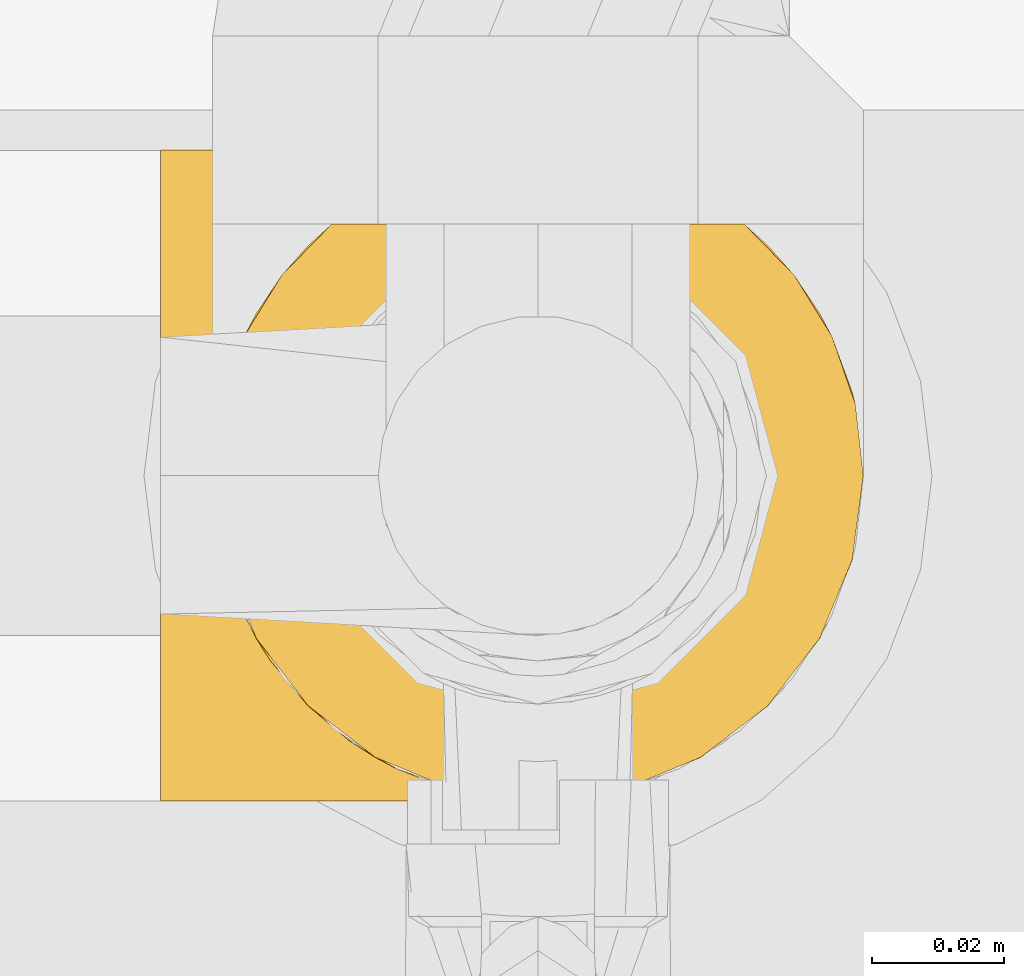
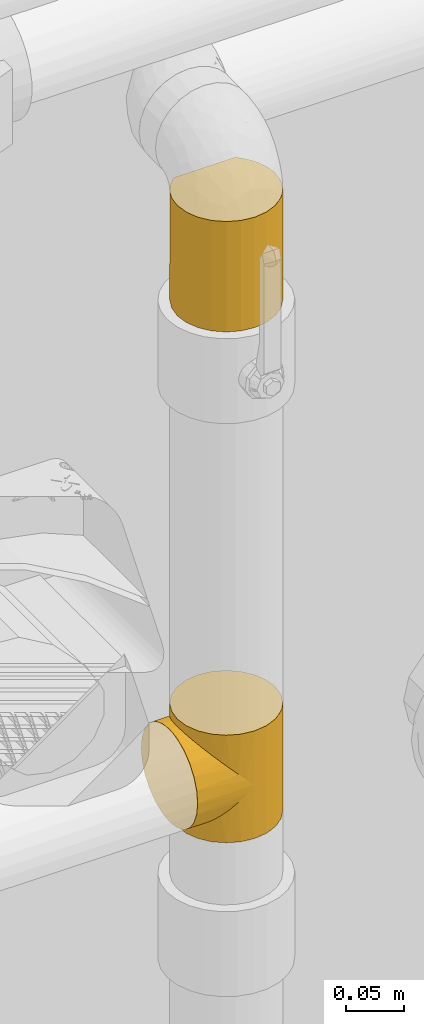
# One storey, part 17 of 94: 2 coverings.
"""IFC2X3 building model written with IfcOpenShell, lengths in millimetres."""

from ifc_helpers import new_model, entity, si_unit, converted_unit, derived_unit, direction, frame, origin, place, context, subcontext, project, spatial, faceted_brep, material, element, save


model = new_model("IFC2X3")

# Units and contexts
model_context = context("Model", 3, precision=0.01, world=origin(), true_north=direction((6.123031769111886e-17, 1.0)))
body_context = subcontext(model_context, "Body", "Model", "MODEL_VIEW")
ifc_project = project(units=[si_unit("LENGTHUNIT", "METRE", prefix="MILLI"), si_unit("AREAUNIT", "SQUARE_METRE"), si_unit("VOLUMEUNIT", "CUBIC_METRE"), converted_unit("PLANEANGLEUNIT", "DEGREE", entity("IfcRatioMeasure", 0.017453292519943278), si_unit("PLANEANGLEUNIT", "RADIAN"), dimensions=[0, 0, 0, 0, 0, 0, 0]), si_unit("MASSUNIT", "GRAM", prefix="KILO"), derived_unit("MASSDENSITYUNIT", [(si_unit("MASSUNIT", "GRAM", prefix="KILO"), 1), (si_unit("LENGTHUNIT", "METRE"), -3)]), derived_unit("IONCONCENTRATIONUNIT", [(si_unit("MASSUNIT", "GRAM", prefix="KILO"), 1), (si_unit("LENGTHUNIT", "METRE"), -3)]), derived_unit("MOMENTOFINERTIAUNIT", [(si_unit("LENGTHUNIT", "METRE"), 4)]), si_unit("TIMEUNIT", "SECOND"), si_unit("FREQUENCYUNIT", "HERTZ"), si_unit("THERMODYNAMICTEMPERATUREUNIT", "DEGREE_CELSIUS"), derived_unit("THERMALTRANSMITTANCEUNIT", [(si_unit("MASSUNIT", "GRAM", prefix="KILO"), 1), (si_unit("THERMODYNAMICTEMPERATUREUNIT", "KELVIN"), -1), (si_unit("TIMEUNIT", "SECOND"), -3)]), derived_unit("THERMALCONDUCTANCEUNIT", [(si_unit("MASSUNIT", "GRAM", prefix="KILO"), 1), (si_unit("THERMODYNAMICTEMPERATUREUNIT", "KELVIN"), -1), (si_unit("TIMEUNIT", "SECOND"), -3), (si_unit("LENGTHUNIT", "METRE"), 1)]), derived_unit("VOLUMETRICFLOWRATEUNIT", [(si_unit("LENGTHUNIT", "METRE"), 3), (si_unit("TIMEUNIT", "SECOND"), -1)]), derived_unit("MASSFLOWRATEUNIT", [(si_unit("MASSUNIT", "GRAM", prefix="KILO"), 1), (si_unit("TIMEUNIT", "SECOND"), -1)]), derived_unit("ROTATIONALFREQUENCYUNIT", [(si_unit("TIMEUNIT", "SECOND"), -1)]), si_unit("ELECTRICCURRENTUNIT", "AMPERE"), si_unit("ELECTRICVOLTAGEUNIT", "VOLT"), si_unit("POWERUNIT", "WATT"), si_unit("FORCEUNIT", "NEWTON", prefix="KILO"), si_unit("ILLUMINANCEUNIT", "LUX"), si_unit("LUMINOUSFLUXUNIT", "LUMEN"), si_unit("LUMINOUSINTENSITYUNIT", "CANDELA"), derived_unit("USERDEFINED", [(si_unit("MASSUNIT", "GRAM", prefix="KILO"), -1), (si_unit("LENGTHUNIT", "METRE"), -2), (si_unit("TIMEUNIT", "SECOND"), 3), (si_unit("LUMINOUSFLUXUNIT", "LUMEN"), 1)]), derived_unit("USERDEFINED", [(si_unit("MASSUNIT", "GRAM", prefix="KILO"), 1), (si_unit("TIMEUNIT", "SECOND"), -3), (si_unit("LENGTHUNIT", "METRE"), 3), (si_unit("ELECTRICCURRENTUNIT", "AMPERE"), -2)]), derived_unit("SOUNDPOWERUNIT", [(si_unit("MASSUNIT", "GRAM", prefix="KILO"), 1), (si_unit("TIMEUNIT", "SECOND"), -3), (si_unit("LENGTHUNIT", "METRE"), 2)]), derived_unit("SOUNDPRESSUREUNIT", [(si_unit("MASSUNIT", "GRAM", prefix="KILO"), 1), (si_unit("LENGTHUNIT", "METRE"), -1), (si_unit("TIMEUNIT", "SECOND"), -2)]), derived_unit("LINEARVELOCITYUNIT", [(si_unit("LENGTHUNIT", "METRE"), 1), (si_unit("TIMEUNIT", "SECOND"), -1)]), si_unit("PRESSUREUNIT", "PASCAL"), derived_unit("USERDEFINED", [(si_unit("MASSUNIT", "GRAM", prefix="KILO"), 1), (si_unit("LENGTHUNIT", "METRE"), -2), (si_unit("TIMEUNIT", "SECOND"), -2)]), derived_unit("LINEARFORCEUNIT", [(si_unit("MASSUNIT", "GRAM", prefix="KILO"), 1), (si_unit("TIMEUNIT", "SECOND"), -2)]), derived_unit("PLANARFORCEUNIT", [(si_unit("MASSUNIT", "GRAM", prefix="KILO"), 1), (si_unit("LENGTHUNIT", "METRE"), -1), (si_unit("TIMEUNIT", "SECOND"), -2)]), derived_unit("SPECIFICHEATCAPACITYUNIT", [(si_unit("THERMODYNAMICTEMPERATUREUNIT", "KELVIN"), -1), (si_unit("LENGTHUNIT", "METRE"), 2), (si_unit("TIMEUNIT", "SECOND"), -2)]), derived_unit("HEATINGVALUEUNIT", [(si_unit("LENGTHUNIT", "METRE"), 2), (si_unit("TIMEUNIT", "SECOND"), -2)]), derived_unit("VAPORPERMEABILITYUNIT", [(si_unit("LENGTHUNIT", "METRE"), -1), (si_unit("TIMEUNIT", "SECOND"), 1)]), derived_unit("DYNAMICVISCOSITYUNIT", [(si_unit("MASSUNIT", "GRAM", prefix="KILO"), 1), (si_unit("TIMEUNIT", "SECOND"), -1), (si_unit("LENGTHUNIT", "METRE"), -1)]), derived_unit("THERMALEXPANSIONCOEFFICIENTUNIT", [(si_unit("THERMODYNAMICTEMPERATUREUNIT", "KELVIN"), -1)]), derived_unit("MODULUSOFELASTICITYUNIT", [(si_unit("MASSUNIT", "GRAM", prefix="KILO"), 1), (si_unit("LENGTHUNIT", "METRE"), -1), (si_unit("TIMEUNIT", "SECOND"), -2)]), derived_unit("ISOTHERMALMOISTURECAPACITYUNIT", [(si_unit("LENGTHUNIT", "METRE"), 3), (si_unit("MASSUNIT", "GRAM", prefix="KILO"), -1)]), derived_unit("MOISTUREDIFFUSIVITYUNIT", [(si_unit("TIMEUNIT", "SECOND"), -1), (si_unit("LENGTHUNIT", "METRE"), 2)])], contexts=[model_context])

# Site, building, storey
site_placement = place(None, origin())
site = spatial("IfcSite", under=ifc_project, at=site_placement, Name="Default", CompositionType="ELEMENT")
building_placement = place(site_placement, origin())
building = spatial("IfcBuilding", under=site, at=building_placement, CompositionType="ELEMENT")
storey_placement = place(building_placement, origin())
storey = spatial("IfcBuildingStorey", under=building, at=storey_placement, Name="Niveau 0", CompositionType="ELEMENT", Elevation=0.0)

# Coverings
ifc_material = material(Name="Isolation - Laine minérale")
covering_1_placement = place(storey_placement, frame((-9029.145865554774, 9871.725273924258, 2067.589965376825)))
element("IfcCovering", 1, at=covering_1_placement, inside=storey, material=ifc_material, Name="Isolation des canalisations:Laine minérale", ObjectType="Isolation des canalisations:Laine minérale", PredefinedType="INSULATION", context=body_context, shape_type="Brep", body=[
    faceted_brep([(50.382911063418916, 99.44780434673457, -63.61708893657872), (57.0, 99.89527223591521, -114.0), (44.2790439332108, 98.22052659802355, -114.0), (32.42500000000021, 93.31042083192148, -114.0), (37.398235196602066, 95.81736245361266, -76.60176480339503), (25.280023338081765, 88.28945394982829, -88.7199766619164), (22.245701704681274, 85.49957053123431, -114.0), (31.17991560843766, 92.5668664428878, -82.82008439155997), (57.0, 99.89527223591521, -57.0), (50.382911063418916, 99.44780434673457, -50.38291106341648), (57.0, 99.89527223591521, 0.0), (8.293648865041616, 55.39376848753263, -105.70635113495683), (8.68737281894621, 57.10575026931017, -114.0), (8.268686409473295, 53.92551125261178, -114.0), (43.82654170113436, 98.09696171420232, -70.17345829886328), (7.850000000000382, 50.74527223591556, -106.14999999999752), (7.850000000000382, 50.74527223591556, -114.0), (8.268686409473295, 53.925511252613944, 0.0), (7.850000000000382, 50.74527223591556, -7.849999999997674), (7.849999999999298, 50.74527223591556, 0.0), (19.842351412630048, 82.91718003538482, -94.15764858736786), (14.434851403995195, 75.32027223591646, -114.0), (11.979798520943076, 69.39325026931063, -114.0), (9.524745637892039, 63.46622830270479, -114.0), (9.995487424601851, 64.37981938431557, -104.0045125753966), (8.737297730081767, 60.042264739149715, -105.26270226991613), (15.069182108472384, 76.38760073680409, -98.93081789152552), (11.253677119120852, 68.7173740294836, -102.74632288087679), (9.106059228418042, 60.2859892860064, -114.0), (8.268686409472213, 47.56503321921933, -114.0), (8.68737281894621, 44.384794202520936, -114.0), (8.395368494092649, 45.59673509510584, -105.60463150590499), (8.940736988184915, 40.44819795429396, -105.05926301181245), (9.106059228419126, 41.20455518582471, -114.0), (9.524745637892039, 38.02431616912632, -114.0), (12.001853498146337, 30.974351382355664, -101.9981465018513), (11.979798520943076, 32.09729420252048, -114.0), (14.434851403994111, 26.17027223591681, -114.0), (10.471295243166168, 35.71127466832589, -103.52870475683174), (16.569044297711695, 22.797815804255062, -97.43095570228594), (18.34027655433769, 21.0806230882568, -114.0), (22.183958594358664, 16.052826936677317, -91.81604140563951), (14.285448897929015, 26.886083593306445, -99.71455110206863), (8.122684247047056, 48.171003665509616, -105.87731575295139), (22.245701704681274, 15.990973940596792, -114.0), (28.50347974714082, 10.699413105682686, -85.49652025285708), (32.42499999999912, 8.18012363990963, -114.0), (35.29170179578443, 6.649101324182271, -78.70829820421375), (44.2790439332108, 3.270017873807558, -114.0), (49.64901845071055, 2.1480956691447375, -64.35098154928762), (57.0, 1.5952722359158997, -114.0), (8.122684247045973, 48.171003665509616, -8.122684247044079), (42.38096415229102, 3.8197323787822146, -71.61903584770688), (57.0, 1.5952722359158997, -57.0), (49.64901845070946, 2.1480956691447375, -49.64901845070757), (57.0, 1.5952722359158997, 0.0), (99.56514859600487, 26.170272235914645, 0.0), (104.47525436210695, 38.02431616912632, 0.0), (106.1499999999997, 50.74527223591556, 0.0), (104.47525436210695, 63.46622830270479, 0.0), (99.56514859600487, 75.32027223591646, 0.0), (91.7542982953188, 85.49957053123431, 0.0), (81.57499999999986, 93.31042083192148, 0.0), (69.72095606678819, 98.22052659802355, 0.0), (44.2790439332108, 98.22052659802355, 0.0), (32.42500000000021, 93.31042083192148, 0.0), (22.245701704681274, 85.49957053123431, 0.0), (14.434851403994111, 75.32027223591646, 0.0), (11.979798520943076, 69.39325026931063, 0.0), (9.524745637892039, 63.46622830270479, 0.0), (9.106059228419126, 60.285989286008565, 0.0), (8.68737281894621, 57.10575026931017, 0.0), (8.268686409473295, 47.56503321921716, 0.0), (8.68737281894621, 44.384794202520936, 0.0), (9.106059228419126, 41.20455518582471, 0.0), (9.524745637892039, 38.02431616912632, 0.0), (11.979798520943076, 32.09729420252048, 0.0), (14.434851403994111, 26.170272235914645, 0.0), (18.34027655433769, 21.0806230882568, 0.0), (22.245701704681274, 15.990973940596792, 0.0), (32.42499999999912, 8.18012363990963, 0.0), (44.2790439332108, 3.270017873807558, 0.0), (69.72095606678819, 3.270017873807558, 0.0), (81.57499999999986, 8.18012363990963, 0.0), (91.7542982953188, 15.990973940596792, 0.0), (69.72095606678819, 98.22052659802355, -114.0), (81.57499999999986, 93.31042083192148, -114.0), (91.7542982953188, 85.49957053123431, -114.0), (99.56514859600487, 75.32027223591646, -114.0), (104.47525436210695, 63.46622830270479, -114.0), (106.1499999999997, 50.74527223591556, -114.0), (104.47525436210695, 38.02431616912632, -114.0), (99.56514859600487, 26.170272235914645, -114.0), (91.7542982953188, 15.990973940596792, -114.0), (81.57499999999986, 8.18012363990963, -114.0), (69.72095606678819, 3.270017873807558, -114.0), (43.82654170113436, 98.09696171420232, -43.82654170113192), (37.398235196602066, 95.81736245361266, -37.398235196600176), (8.293648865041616, 55.39376848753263, -8.293648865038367), (31.17991560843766, 92.5668664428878, -31.179915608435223), (25.280023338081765, 88.28945394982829, -25.280023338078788), (8.737297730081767, 60.042264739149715, -8.73729773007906), (19.842351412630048, 82.91718003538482, -19.84235141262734), (15.069182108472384, 76.38760073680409, -15.069182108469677), (9.995487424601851, 64.37981938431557, -9.995487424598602), (11.253677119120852, 68.7173740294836, -11.253677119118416), (12.001853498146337, 30.974351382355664, -12.001853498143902), (10.471295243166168, 35.71127466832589, -10.47129524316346), (16.569044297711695, 22.797815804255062, -16.569044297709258), (8.940736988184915, 40.44819795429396, -8.94073698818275), (22.183958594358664, 16.052826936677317, -22.183958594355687), (14.285448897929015, 26.886083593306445, -14.28544889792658), (8.395368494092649, 45.59673509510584, -8.395368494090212), (35.29170179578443, 6.649101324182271, -35.29170179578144), (42.38096415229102, 3.8197323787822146, -42.380964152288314), (28.50347974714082, 10.699413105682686, -28.503479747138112), (0.0, 98.22052659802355, -69.72095606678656), (0.0, 93.31042083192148, -81.5749999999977), (0.0, 85.49957053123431, -91.75429829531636), (0.0, 75.32027223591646, -99.56514859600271), (0.0, 69.39325026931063, -102.02020147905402), (0.0, 63.46622830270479, -104.47525436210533), (0.0, 60.2859892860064, -104.89394077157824), (0.0, 57.10575026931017, -105.3126271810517), (0.0, 53.925511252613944, -105.73131359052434), (0.0, 50.74527223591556, -106.14999999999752), (0.0, 47.56503321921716, -105.73131359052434), (0.0, 44.384794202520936, -105.31262718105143), (0.0, 41.20455518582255, -104.89394077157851), (0.0, 38.02431616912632, -104.47525436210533), (0.0, 32.09729420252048, -102.02020147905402), (0.0, 26.170272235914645, -99.56514859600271), (0.0, 21.0806230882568, -95.65972344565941), (0.0, 15.990973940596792, -91.75429829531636), (0.0, 8.18012363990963, -81.5749999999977), (0.0, 3.270017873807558, -69.72095606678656), (0.0, 1.5952722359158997, -57.0), (0.0, 3.270017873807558, -44.279043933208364), (0.0, 8.18012363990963, -32.42499999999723), (0.0, 15.990973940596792, -22.245701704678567), (0.0, 21.0806230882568, -18.340276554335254), (0.0, 26.170272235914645, -14.434851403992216), (0.0, 32.09729420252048, -11.979798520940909), (0.0, 38.02431616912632, -9.524745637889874), (0.0, 41.20455518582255, -9.106059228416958), (0.0, 44.384794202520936, -8.687372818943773), (0.0, 47.56503321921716, -8.26868640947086), (0.0, 50.74527223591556, -7.8499999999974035), (0.0, 53.92551125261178, -8.268686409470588), (0.0, 57.10575026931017, -8.687372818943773), (0.0, 60.2859892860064, -9.106059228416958), (0.0, 63.46622830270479, -9.524745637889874), (0.0, 69.39325026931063, -11.97979852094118), (0.0, 75.32027223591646, -14.434851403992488), (0.0, 85.49957053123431, -22.245701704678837), (0.0, 93.31042083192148, -32.4249999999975), (0.0, 98.22052659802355, -44.279043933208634), (0.0, 99.89527223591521, -57.0)], [[[0, 1, 2]], [[2, 3, 4]], [[5, 3, 6]], [[5, 7, 3]], [[0, 8, 1]], [[8, 9, 10]], [[11, 12, 13]], [[4, 14, 2]], [[7, 4, 3]], [[0, 2, 14]], [[15, 13, 16]], [[17, 18, 19]], [[20, 6, 21]], [[22, 23, 24]], [[15, 11, 13]], [[23, 25, 24]], [[26, 20, 21]], [[27, 21, 22]], [[27, 22, 24]], [[25, 12, 11]], [[25, 23, 28, 12]], [[26, 21, 27]], [[6, 20, 5]], [[29, 30, 31]], [[32, 30, 33, 34]], [[35, 36, 37]], [[38, 36, 35]], [[38, 32, 34]], [[39, 37, 40]], [[41, 39, 40]], [[35, 37, 39, 42]], [[43, 16, 29]], [[40, 44, 41]], [[45, 44, 46]], [[47, 46, 48]], [[49, 48, 50]], [[47, 45, 46]], [[16, 43, 15]], [[51, 19, 18]], [[49, 52, 48]], [[53, 49, 50]], [[54, 53, 55]], [[30, 32, 31]], [[47, 48, 52]], [[36, 38, 34]], [[44, 45, 41]], [[29, 31, 43]], [[56, 57, 58, 59, 60, 61, 62, 63, 10, 64, 65, 66, 67, 68, 69, 70, 71, 17, 19, 72, 73, 74, 75, 76, 77, 78, 79, 80, 81, 55, 82, 83, 84]], [[85, 86, 87, 88, 89, 90, 91, 92, 93, 94, 95, 50, 48, 46, 44, 40, 37, 36, 34, 33, 30, 29, 16, 13, 12, 28, 23, 22, 21, 6, 3, 2, 1]], [[88, 87, 61, 60]], [[58, 90, 89, 59]], [[89, 88, 60, 59]], [[62, 86, 85, 63]], [[1, 8, 10, 63, 85]], [[61, 87, 86, 62]], [[96, 97, 64]], [[18, 17, 98]], [[9, 96, 64]], [[10, 9, 64]], [[65, 99, 100]], [[65, 64, 97]], [[71, 101, 98]], [[65, 100, 66]], [[99, 65, 97]], [[102, 103, 67]], [[104, 68, 105]], [[104, 101, 69]], [[68, 104, 69]], [[103, 105, 67]], [[66, 102, 67]], [[101, 71, 70, 69]], [[68, 67, 105]], [[98, 17, 71]], [[102, 66, 100]], [[106, 76, 107]], [[106, 77, 76]], [[77, 108, 78]], [[109, 75, 74, 73]], [[110, 78, 108]], [[111, 108, 77, 106]], [[19, 51, 72]], [[109, 73, 112]], [[72, 51, 112]], [[76, 75, 107]], [[110, 79, 78]], [[75, 109, 107]], [[113, 114, 81]], [[114, 54, 81]], [[79, 115, 80]], [[115, 79, 110]], [[113, 80, 115]], [[113, 81, 80]], [[54, 55, 81]], [[112, 73, 72]], [[53, 50, 95, 82, 55]], [[82, 95, 94, 83]], [[94, 93, 84, 83]], [[84, 93, 92, 56]], [[56, 92, 91, 57]], [[57, 91, 90, 58]], [[116, 117, 118, 119, 120, 121, 122, 123, 124, 125, 126, 127, 128, 129, 130, 131, 132, 133, 134, 135, 136, 137, 138, 139, 140, 141, 142, 143, 144, 145, 146, 147, 148, 149, 150, 151, 152, 153, 154, 155, 156, 157]], [[25, 123, 122, 121]], [[119, 118, 20]], [[15, 124, 11]], [[27, 120, 119]], [[124, 15, 125]], [[124, 123, 11]], [[120, 24, 121]], [[26, 27, 119]], [[20, 26, 119]], [[24, 120, 27]], [[25, 121, 24]], [[118, 5, 20]], [[7, 5, 117]], [[117, 5, 118]], [[4, 117, 116]], [[0, 116, 157]], [[4, 7, 117]], [[0, 14, 116]], [[8, 0, 157]], [[4, 116, 14]], [[123, 25, 11]], [[9, 157, 156]], [[156, 155, 97]], [[100, 155, 154]], [[100, 99, 155]], [[9, 8, 157]], [[98, 149, 148]], [[97, 96, 156]], [[99, 97, 155]], [[9, 156, 96]], [[18, 148, 147]], [[102, 154, 153]], [[152, 151, 104]], [[18, 98, 148]], [[151, 101, 104]], [[103, 102, 153]], [[105, 153, 152]], [[105, 152, 104]], [[101, 149, 98]], [[101, 151, 150, 149]], [[103, 153, 105]], [[154, 102, 100]], [[146, 145, 112]], [[109, 145, 144, 143]], [[106, 142, 141]], [[107, 142, 106]], [[107, 109, 143]], [[108, 141, 140]], [[110, 108, 140]], [[106, 141, 108, 111]], [[51, 147, 146]], [[140, 139, 110]], [[115, 139, 138]], [[113, 138, 137]], [[54, 137, 136]], [[113, 115, 138]], [[147, 51, 18]], [[54, 114, 137]], [[53, 54, 136]], [[145, 109, 112]], [[113, 137, 114]], [[142, 107, 143]], [[139, 115, 110]], [[146, 112, 51]], [[49, 136, 135]], [[135, 134, 47]], [[45, 134, 133]], [[45, 47, 134]], [[43, 125, 15]], [[49, 53, 136]], [[32, 129, 128, 127]], [[47, 52, 135]], [[49, 135, 52]], [[31, 127, 126]], [[131, 35, 42, 39]], [[125, 43, 126]], [[39, 132, 131]], [[130, 129, 38]], [[43, 31, 126]], [[41, 133, 132]], [[41, 132, 39]], [[35, 130, 38]], [[32, 127, 31]], [[35, 131, 130]], [[129, 32, 38]], [[133, 41, 45]]]),
])
covering_2_placement = place(storey_placement, frame((-9022.871137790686, 9871.745273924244, 2495.0)))
element("IfcCovering", 2, at=covering_2_placement, inside=storey, material=ifc_material, Name="Isolation des canalisations:Laine minérale", ObjectType="Isolation des canalisations:Laine minérale", PredefinedType="INSULATION", context=body_context, shape_type="Brep", body=[
    faceted_brep([(3.26933639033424, 38.00949255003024, 0.0), (1.5952722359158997, 50.72527223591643, 0.0), (3.26933639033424, 63.44105192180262, 0.0), (8.17744414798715, 75.29027223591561, 0.0), (15.985116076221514, 85.46542839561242, 0.0), (26.160272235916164, 93.2731003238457, 0.0), (38.00949255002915, 98.18120808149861, 0.0), (50.72527223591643, 99.85527223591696, 0.0), (63.4410519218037, 98.18120808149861, 0.0), (75.29027223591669, 93.2731003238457, 0.0), (85.46542839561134, 85.46542839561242, 0.0), (93.2731003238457, 75.29027223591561, 0.0), (98.18120808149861, 63.44105192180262, 0.0), (99.85527223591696, 50.72527223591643, 0.0), (98.18120808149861, 38.00949255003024, 0.0), (93.2731003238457, 26.160272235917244, 0.0), (85.46542839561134, 15.98511607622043, 0.0), (75.29027223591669, 8.17744414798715, 0.0), (63.4410519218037, 3.26933639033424, 0.0), (50.72527223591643, 1.5952722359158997, 0.0), (38.00949255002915, 3.26933639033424, 0.0), (26.160272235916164, 8.17744414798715, 0.0), (15.985116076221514, 15.98511607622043, 0.0), (8.17744414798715, 26.160272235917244, 0.0), (2.793596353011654, 61.51004608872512, 117.0), (1.5952722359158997, 50.72527223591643, 117.0), (3.26933639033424, 38.00949255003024, 117.0), (8.17744414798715, 26.160272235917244, 117.0), (15.985116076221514, 15.98511607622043, 117.0), (26.160272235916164, 8.17744414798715, 117.0), (38.00949255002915, 3.26933639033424, 117.0), (50.72527223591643, 1.5952722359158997, 117.0), (63.4410519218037, 3.26933639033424, 117.0), (75.29027223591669, 8.17744414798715, 117.0), (85.46542839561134, 15.98511607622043, 117.0), (93.2731003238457, 26.160272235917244, 117.0), (98.18120808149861, 38.00949255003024, 117.0), (99.85527223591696, 50.72527223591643, 117.0), (98.65694811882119, 61.51004608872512, 117.0), (95.1273794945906, 71.75405657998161, 117.0), (89.43799982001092, 80.9755883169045, 117.0), (81.86619226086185, 88.72527223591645, 117.0), (19.584352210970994, 88.72527223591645, 117.0), (12.012544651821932, 80.9755883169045, 117.0), (6.323164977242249, 71.75405657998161, 117.0), (26.531823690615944, 93.48546338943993, 112.23980884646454), (34.19020495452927, 96.98917230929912, 108.73609992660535), (42.33445912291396, 99.13344463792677, 106.59182759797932), (50.72527223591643, 99.85527223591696, 105.86999999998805), (59.116085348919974, 99.13344463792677, 106.59182759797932), (67.26033951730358, 96.98917230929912, 108.73609992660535), (74.9187207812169, 93.48546338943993, 112.23980884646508)], [[[0, 1, 2, 3, 4, 5, 6, 7, 8, 9, 10, 11, 12, 13, 14, 15, 16, 17, 18, 19, 20, 21, 22, 23]], [[24, 25, 26, 27, 28, 29, 30, 31, 32, 33, 34, 35, 36, 37, 38, 39, 40, 41, 42, 43, 44]], [[25, 24, 1]], [[44, 43, 3]], [[24, 44, 2]], [[2, 1, 24]], [[3, 2, 44]], [[43, 4, 3]], [[43, 42, 4]], [[42, 45, 5]], [[46, 47, 6]], [[45, 46, 5]], [[5, 46, 6]], [[7, 6, 47]], [[48, 7, 47]], [[42, 5, 4]], [[49, 50, 8]], [[51, 41, 9]], [[50, 51, 9]], [[48, 49, 7]], [[7, 49, 8]], [[50, 9, 8]], [[41, 10, 9]], [[11, 40, 39]], [[12, 39, 38]], [[13, 38, 37]], [[10, 40, 11]], [[11, 39, 12]], [[38, 13, 12]], [[40, 10, 41]], [[14, 13, 37, 36]], [[15, 14, 36, 35]], [[35, 34, 16, 15]], [[18, 17, 33, 32]], [[19, 18, 32, 31]], [[34, 33, 17, 16]], [[20, 19, 31, 30]], [[21, 20, 30, 29]], [[29, 28, 22, 21]], [[0, 23, 27, 26]], [[1, 0, 26, 25]], [[28, 27, 23, 22]], [[51, 50, 49, 48, 47, 46, 45, 42, 41]]]),
])

save(model, "model.ifc")
